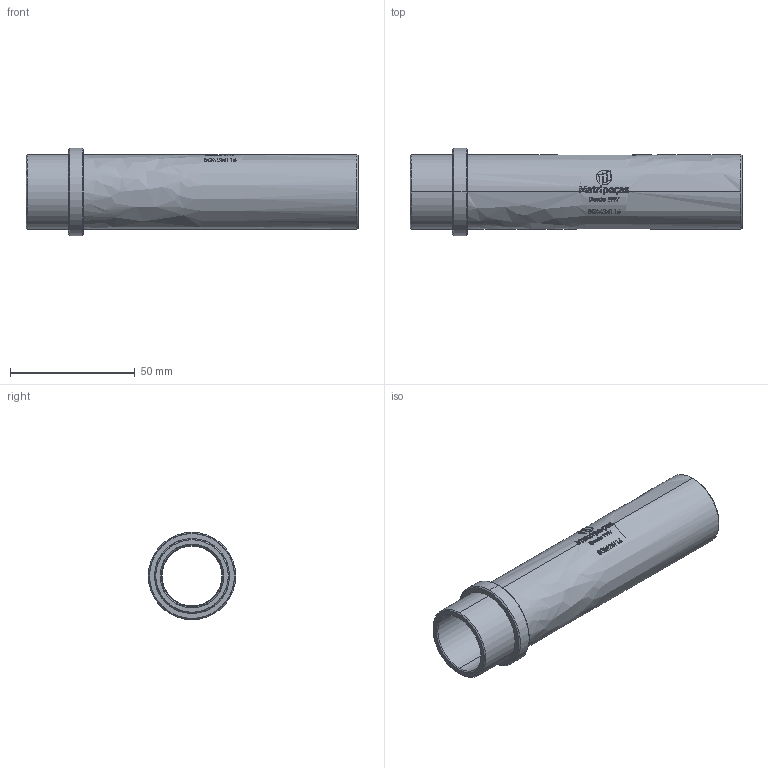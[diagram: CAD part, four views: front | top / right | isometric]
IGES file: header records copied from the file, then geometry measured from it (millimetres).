
Start section: SolidWorks IGES file using analytic representation for surfaces
Global section: file name: E:\1.TRIVECTOR\Clientes\MATRIPEÇAS\PEÇAS_CATALOGO_SITE\2.BGM - BUCHA GUIA E31 (CATÁLOGO)\BGM24116.IGS; native system: SolidWorks 2024; preprocessor: SolidWorks 2024; author: Gabriel Techio; date: 260827.160037; units: millimetre
Bounding box: 133 x 35 x 35 mm (x, y, z)
Surface area: 23606.7 mm2 (no closed solid volume)
Topology: 0 solids, 0 shells, 449 faces, 4537 edges, 4537 vertices
Faces by surface type: bspline 362, revolution 87
